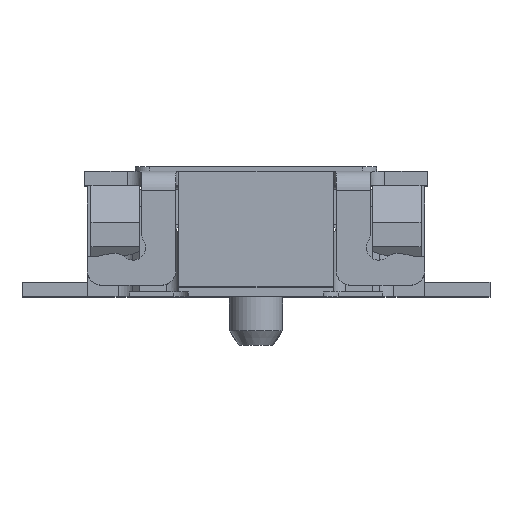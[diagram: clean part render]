
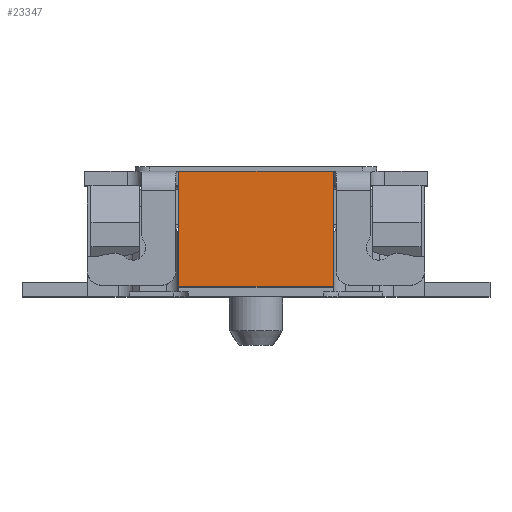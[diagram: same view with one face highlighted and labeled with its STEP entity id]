
A CAD part, top view. The second image highlights one B-rep face of the part: STEP entity #23347.
In plain terms, the highlighted planar face has unit normal (0, 0, 1).
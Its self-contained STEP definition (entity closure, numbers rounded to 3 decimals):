
#879 = AXIS2_PLACEMENT_3D ( 'NONE', #25307, #11507, #11108 ) ;
#2513 = ORIENTED_EDGE ( 'NONE', *, *, #2555, .T. ) ;
#2555 = EDGE_CURVE ( 'NONE', #23442, #4339, #22337, .T. ) ;
#2636 = LINE ( 'NONE', #20669, #24709 ) ;
#3133 = CARTESIAN_POINT ( 'NONE',  ( 419.737, 54.566, 48.22 ) ) ;
#3503 = PLANE ( 'NONE',  #879 ) ;
#4339 = VERTEX_POINT ( 'NONE', #3133 ) ;
#4677 = CARTESIAN_POINT ( 'NONE',  ( 421.337, 54.566, 48.22 ) ) ;
#4792 = EDGE_CURVE ( 'NONE', #24578, #4339, #20538, .T. ) ;
#6758 = DIRECTION ( 'NONE',  ( 0., 1., 0. ) ) ;
#7250 = CARTESIAN_POINT ( 'NONE',  ( 419.737, 53.366, 48.22 ) ) ;
#9951 = CARTESIAN_POINT ( 'NONE',  ( 421.337, 54.566, 48.22 ) ) ;
#11108 = DIRECTION ( 'NONE',  ( 1., 0., 0. ) ) ;
#11507 = DIRECTION ( 'NONE',  ( 0., 0., 1. ) ) ;
#12048 = EDGE_LOOP ( 'NONE', ( #20787, #21924, #2513, #25516 ) ) ;
#12537 = CARTESIAN_POINT ( 'NONE',  ( 419.737, 53.366, 48.22 ) ) ;
#12658 = DIRECTION ( 'NONE',  ( -1., 0., 0. ) ) ;
#13689 = VECTOR ( 'NONE', #21037, 1000. ) ;
#15468 = VECTOR ( 'NONE', #12658, 1000. ) ;
#16052 = EDGE_CURVE ( 'NONE', #23442, #22244, #2636, .T. ) ;
#16290 = CARTESIAN_POINT ( 'NONE',  ( 419.737, 53.366, 48.22 ) ) ;
#16399 = CARTESIAN_POINT ( 'NONE',  ( 421.337, 53.366, 48.22 ) ) ;
#18350 = DIRECTION ( 'NONE',  ( 0., -1., 0. ) ) ;
#20538 = LINE ( 'NONE', #16290, #23006 ) ;
#20669 = CARTESIAN_POINT ( 'NONE',  ( 421.337, 54.566, 48.22 ) ) ;
#20787 = ORIENTED_EDGE ( 'NONE', *, *, #24735, .T. ) ;
#21037 = DIRECTION ( 'NONE',  ( 1., 0., 0. ) ) ;
#21924 = ORIENTED_EDGE ( 'NONE', *, *, #16052, .F. ) ;
#22244 = VERTEX_POINT ( 'NONE', #16399 ) ;
#22337 = LINE ( 'NONE', #4677, #15468 ) ;
#23006 = VECTOR ( 'NONE', #6758, 1000. ) ;
#23235 = LINE ( 'NONE', #7250, #13689 ) ;
#23347 = ADVANCED_FACE ( 'NONE', ( #25432 ), #3503, .T. ) ;
#23442 = VERTEX_POINT ( 'NONE', #9951 ) ;
#24578 = VERTEX_POINT ( 'NONE', #12537 ) ;
#24709 = VECTOR ( 'NONE', #18350, 1000. ) ;
#24735 = EDGE_CURVE ( 'NONE', #24578, #22244, #23235, .T. ) ;
#25307 = CARTESIAN_POINT ( 'NONE',  ( 421.387, 54.416, 48.22 ) ) ;
#25432 = FACE_OUTER_BOUND ( 'NONE', #12048, .T. ) ;
#25516 = ORIENTED_EDGE ( 'NONE', *, *, #4792, .F. ) ;
